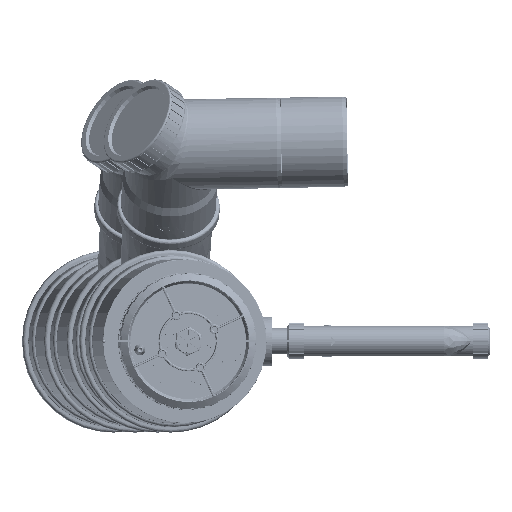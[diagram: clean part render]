
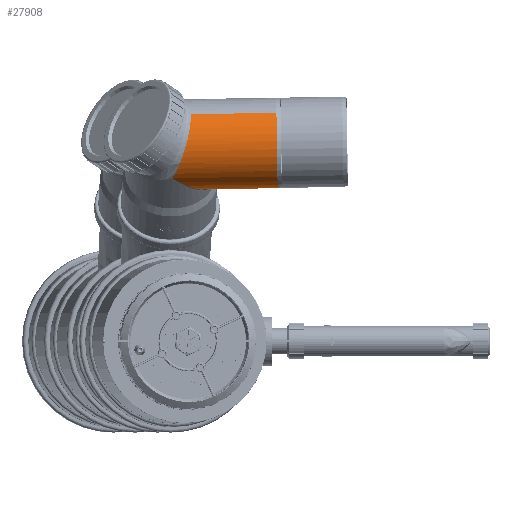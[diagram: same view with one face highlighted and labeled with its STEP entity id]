
A CAD part, left-side view. The second image highlights one B-rep face of the part: STEP entity #27908.
In plain terms, the highlighted cylindrical face has radius 55 mm (diameter 110 mm), a partial arc.
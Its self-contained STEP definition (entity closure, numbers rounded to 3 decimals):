
#14732=CARTESIAN_POINT('',(-191.802,55.,
0.));
#14737=DIRECTION('',(-1.,0.,0.));
#14738=VECTOR('',#14737,73.435);
#14739=CARTESIAN_POINT('',(-118.368,55.,0.));
#14740=LINE('5450',#14739,#14738);
#14758=CARTESIAN_POINT('',(-118.368,0.,0.));
#14759=DIRECTION('',(1.,0.,0.));
#14760=DIRECTION('',(0.,-1.,0.));
#14761=AXIS2_PLACEMENT_3D('',#14758,#14759,#14760);
#14766=CARTESIAN_POINT('',(-191.802,55.,
0.));
#14767=CARTESIAN_POINT('',(-191.803,55.,
-2.301));
#14768=CARTESIAN_POINT('',(-192.09,54.71,
-6.963));
#14769=CARTESIAN_POINT('',(-193.436,53.353,
-13.998));
#14770=CARTESIAN_POINT('',(-195.758,51.012,
-21.021));
#14771=CARTESIAN_POINT('',(-199.196,47.548,
-28.033));
#14772=CARTESIAN_POINT('',(-203.895,42.811,
-34.881));
#14773=CARTESIAN_POINT('',(-209.95,36.708,
-41.297));
#14774=CARTESIAN_POINT('',(-217.451,29.147,
-46.976));
#14775=CARTESIAN_POINT('',(-226.318,20.209,
-51.505));
#14776=CARTESIAN_POINT('',(-236.423,10.024,
-54.411));
#14777=CARTESIAN_POINT('',(-243.046,3.349,
-54.999));
#14778=CARTESIAN_POINT('',(-246.367,0.001,
-55.));
#14783=CARTESIAN_POINT('',(-222.644,-55.,
0.));
#14784=CARTESIAN_POINT('',(-222.644,-55.,
-3.02));
#14785=CARTESIAN_POINT('',(-222.857,-54.501,
-9.086));
#14786=CARTESIAN_POINT('',(-223.837,-52.241,
-18.008));
#14787=CARTESIAN_POINT('',(-225.452,-48.489,
-26.514));
#14788=CARTESIAN_POINT('',(-227.703,-43.27,
-34.393));
#14789=CARTESIAN_POINT('',(-230.562,-36.65,
-41.393));
#14790=CARTESIAN_POINT('',(-233.965,-28.732,
-47.244));
#14791=CARTESIAN_POINT('',(-237.845,-19.807,
-51.638));
#14792=CARTESIAN_POINT('',(-241.988,-10.04,
-54.387));
#14793=CARTESIAN_POINT('',(-244.992,-3.394,
-54.999));
#14794=CARTESIAN_POINT('',(-246.367,0.001,
-55.));
#14799=DIRECTION('',(-1.,0.,0.));
#14800=VECTOR('',#14799,104.276);
#14801=CARTESIAN_POINT('',(-118.368,-55.,0.));
#14802=LINE('5449',#14801,#14800);
#26553=CARTESIAN_POINT('',(-222.644,-55.,
0.));
#26554=VERTEX_POINT('',#26553);
#26691=VERTEX_POINT('',#14732);
#26692=VERTEX_POINT('',#14778);
#26697=CARTESIAN_POINT('',(-118.368,55.,0.));
#26698=CARTESIAN_POINT('',(-118.368,-55.,0.));
#26699=VERTEX_POINT('',#26697);
#26700=VERTEX_POINT('',#26698);
#27894=CARTESIAN_POINT('',(0.,0.,0.));
#27895=DIRECTION('',(1.,0.,0.));
#27896=DIRECTION('',(0.,1.,0.));
#27897=AXIS2_PLACEMENT_3D('',#27894,#27895,#27896);
#27898=CYLINDRICAL_SURFACE('3263',#27897,55.);
#27899=ORIENTED_EDGE('5446',*,*,#27885,.T.);
#27900=ORIENTED_EDGE('5450',*,*,#27860,.T.);
#27902=ORIENTED_EDGE('5336',*,*,#27901,.T.);
#27904=ORIENTED_EDGE('5342',*,*,#27903,.F.);
#27905=ORIENTED_EDGE('5449',*,*,#27854,.F.);
#27906=EDGE_LOOP('3263',(#27899,#27900,#27902,#27904,#27905));
#27907=FACE_OUTER_BOUND('3263',#27906,.F.);
#14762=CIRCLE('5446',#14761,55.);
#14779=B_SPLINE_CURVE_WITH_KNOTS('5336',3,(#14766,#14767,#14768,#14769,#14770,
#14771,#14772,#14773,#14774,#14775,#14776,#14777,#14778),.UNSPECIFIED.,.F.,.F.,(
4,1,1,1,1,1,1,1,1,1,4),(0.,0.1,0.2,0.3,0.4,0.5,0.6,0.7,0.8,
0.9,1.),.UNSPECIFIED.);
#14795=B_SPLINE_CURVE_WITH_KNOTS('5342',3,(#14783,#14784,#14785,#14786,#14787,
#14788,#14789,#14790,#14791,#14792,#14793,#14794),.UNSPECIFIED.,.F.,.F.,(4,1,1,
1,1,1,1,1,1,4),(0.,0.111,0.222,0.333,
0.444,0.556,0.667,0.778,
0.889,1.),.UNSPECIFIED.);
#27854=EDGE_CURVE('5449',#26700,#26554,#14802,.T.);
#27860=EDGE_CURVE('5450',#26699,#26691,#14740,.T.);
#27885=EDGE_CURVE('5446',#26700,#26699,#14762,.T.);
#27901=EDGE_CURVE('5336',#26691,#26692,#14779,.T.);
#27903=EDGE_CURVE('5342',#26554,#26692,#14795,.T.);
#27908=ADVANCED_FACE('3263',(#27907),#27898,.T.);
